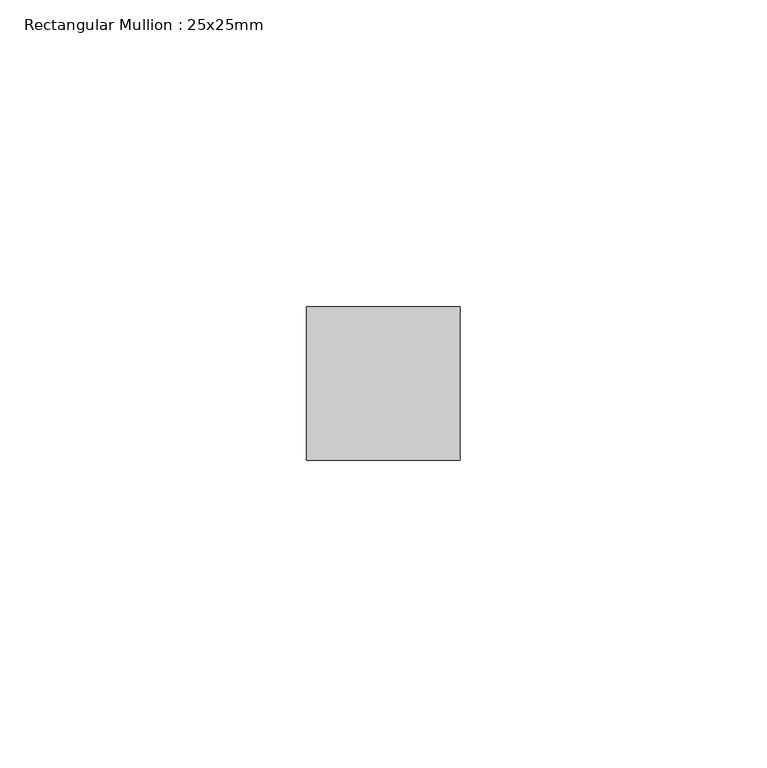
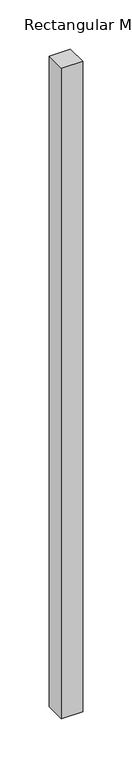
"""IFC4 building model written with IfcOpenShell, lengths in millimetres: member geometry, Rectangular Mullion : 25x25mm."""

from ifc_helpers import new_model, si_unit, frame, origin, place, context, project, spatial, polyline, outline, extrude, source, transform, mapped, element, save


def rectangular_mullion_25x25mm_8c50469f(model_context):
    return source(origin(), model_context, "Body", "SweptSolid", [
        extrude(outline(polyline([(0.0, 0.5), (0.0, -24.5), (-25.0, -24.5), (-25.0, 0.5), (0.0, 0.5)])), frame((0.0, 0.0, -808.3333333), z_axis=(0.0, 0.0, 1.0), x_axis=(1.0, 0.0, 0.0)), (0.0, 0.0, 1.0), 808.3333333),
    ])


if __name__ == "__main__":
    model = new_model("IFC4")
    model_context = context("Model", 3, world=origin())
    ifc_project = project(units=[si_unit("LENGTHUNIT", "METRE", prefix="MILLI")], contexts=[model_context])
    site = spatial("IfcSite", under=ifc_project)
    building = spatial("IfcBuilding", under=site)
    placement = place(None, origin())
    rectangular_mullion_25x25mm_shape = rectangular_mullion_25x25mm_8c50469f(model_context)
    element("IfcMember", 1, ObjectType="Rectangular Mullion : 25x25mm", at=placement, inside=building, context=model_context, shape_type="MappedRepresentation", body=[
        mapped(rectangular_mullion_25x25mm_shape, transform((0.0, 0.0, 0.0), x_axis=(1.0, 0.0, 0.0), y_axis=(0.0, 1.0, 0.0), z_axis=(0.0, 0.0, 1.0))),
    ])
    save(model, "model.ifc")
